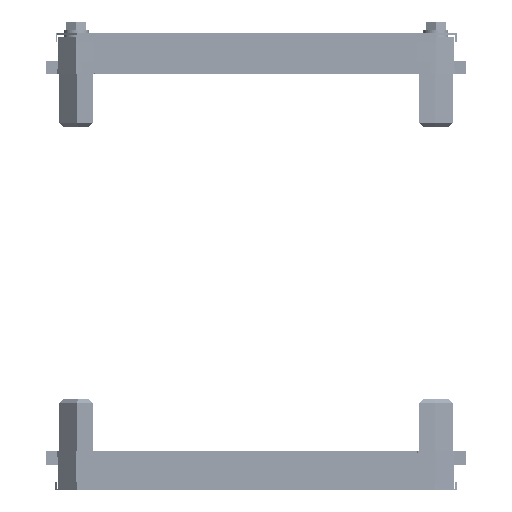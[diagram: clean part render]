
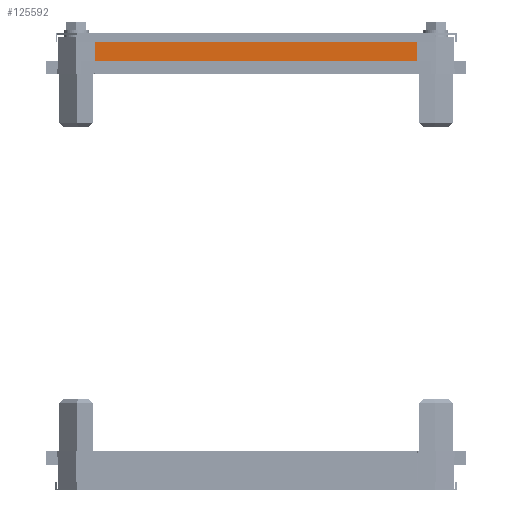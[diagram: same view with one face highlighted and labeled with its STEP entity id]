
A CAD part, left-side view. The second image highlights one B-rep face of the part: STEP entity #125592.
In plain terms, the highlighted planar face has unit normal (-1, 0, 0).
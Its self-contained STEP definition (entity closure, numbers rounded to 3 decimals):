
#2839 = CARTESIAN_POINT ( 'NONE',  ( -589.55, -145.6, 408.4 ) ) ;
#5397 = CARTESIAN_POINT ( 'NONE',  ( -589.55, 162.4, 408.4 ) ) ;
#5850 = ORIENTED_EDGE ( 'NONE', *, *, #63232, .F. ) ;
#7677 = EDGE_CURVE ( 'NONE', #123719, #80457, #31301, .T. ) ;
#13175 = VECTOR ( 'NONE', #46922, 1000. ) ;
#28337 = LINE ( 'NONE', #5397, #85555 ) ;
#29014 = DIRECTION ( 'NONE',  ( 0., -1., 0. ) ) ;
#29156 = CARTESIAN_POINT ( 'NONE',  ( -589.55, 162.4, 408.4 ) ) ;
#31301 = LINE ( 'NONE', #81197, #87611 ) ;
#38840 = LINE ( 'NONE', #141013, #71527 ) ;
#40079 = DIRECTION ( 'NONE',  ( 1., 0., 0. ) ) ;
#43544 = VERTEX_POINT ( 'NONE', #29156 ) ;
#43556 = EDGE_CURVE ( 'NONE', #123719, #43544, #28337, .T. ) ;
#46922 = DIRECTION ( 'NONE',  ( 0., 0., 1. ) ) ;
#58127 = AXIS2_PLACEMENT_3D ( 'NONE', #143650, #40079, #118301 ) ;
#63232 = EDGE_CURVE ( 'NONE', #134845, #80457, #38840, .T. ) ;
#64831 = ORIENTED_EDGE ( 'NONE', *, *, #74753, .F. ) ;
#67558 = DIRECTION ( 'NONE',  ( 0., 1., 0. ) ) ;
#68463 = PLANE ( 'NONE',  #58127 ) ;
#71527 = VECTOR ( 'NONE', #29014, 1000. ) ;
#74753 = EDGE_CURVE ( 'NONE', #43544, #134845, #132769, .T. ) ;
#75692 = EDGE_LOOP ( 'NONE', ( #111108, #5850, #64831, #102057 ) ) ;
#80457 = VERTEX_POINT ( 'NONE', #160045 ) ;
#81197 = CARTESIAN_POINT ( 'NONE',  ( -589.55, -145.6, 409.7 ) ) ;
#85354 = CARTESIAN_POINT ( 'NONE',  ( -589.55, 162.4, 409.7 ) ) ;
#85555 = VECTOR ( 'NONE', #67558, 1000. ) ;
#87611 = VECTOR ( 'NONE', #95058, 1000. ) ;
#92329 = CARTESIAN_POINT ( 'NONE',  ( -589.55, 162.4, 430.9 ) ) ;
#93780 = FACE_OUTER_BOUND ( 'NONE', #75692, .T. ) ;
#95058 = DIRECTION ( 'NONE',  ( 0., 0., 1. ) ) ;
#102057 = ORIENTED_EDGE ( 'NONE', *, *, #43556, .F. ) ;
#111108 = ORIENTED_EDGE ( 'NONE', *, *, #7677, .T. ) ;
#118301 = DIRECTION ( 'NONE',  ( 0., -1., 0. ) ) ;
#123719 = VERTEX_POINT ( 'NONE', #2839 ) ;
#125592 = ADVANCED_FACE ( 'NONE', ( #93780 ), #68463, .F. ) ;
#132769 = LINE ( 'NONE', #85354, #13175 ) ;
#134845 = VERTEX_POINT ( 'NONE', #92329 ) ;
#141013 = CARTESIAN_POINT ( 'NONE',  ( -589.55, 162.4, 430.9 ) ) ;
#143650 = CARTESIAN_POINT ( 'NONE',  ( -589.55, 162.4, 409.7 ) ) ;
#160045 = CARTESIAN_POINT ( 'NONE',  ( -589.55, -145.6, 430.9 ) ) ;
